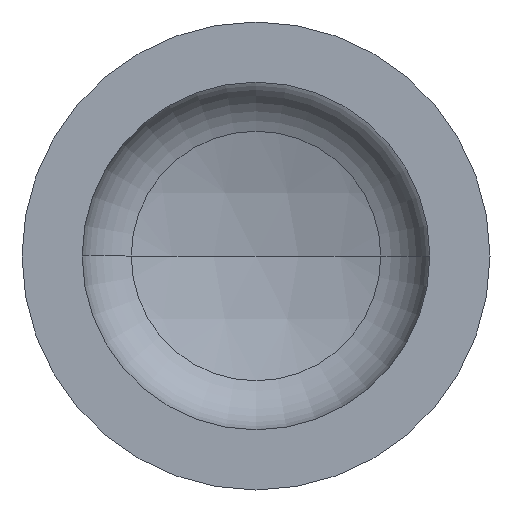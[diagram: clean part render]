
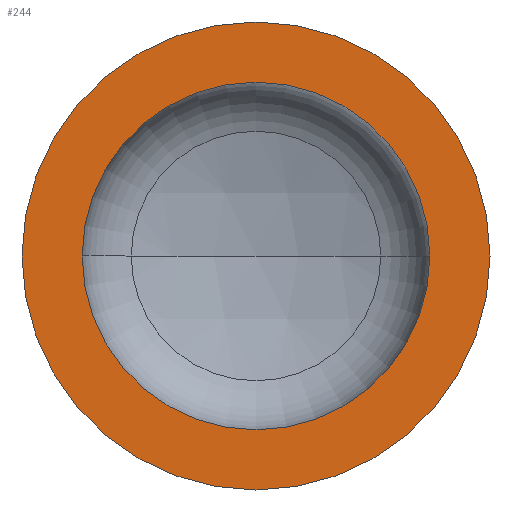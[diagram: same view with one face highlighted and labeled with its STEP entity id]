
A CAD part, front view. The second image highlights one B-rep face of the part: STEP entity #244.
In plain terms, the highlighted planar face has unit normal (0, -1, 0).
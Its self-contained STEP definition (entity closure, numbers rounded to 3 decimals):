
#1 = VERTEX_POINT ( 'NONE', #229 ) ;
#18 = CARTESIAN_POINT ( 'NONE',  ( -350., 0., 0. ) ) ;
#28 = VERTEX_POINT ( 'NONE', #228 ) ;
#29 = AXIS2_PLACEMENT_3D ( 'NONE', #155, #115, #117 ) ;
#32 = VERTEX_POINT ( 'NONE', #269 ) ;
#33 = ORIENTED_EDGE ( 'NONE', *, *, #320, .T. ) ;
#39 = AXIS2_PLACEMENT_3D ( 'NONE', #18, #94, #358 ) ;
#48 = CARTESIAN_POINT ( 'NONE',  ( -260., 0., 0. ) ) ;
#53 = ORIENTED_EDGE ( 'NONE', *, *, #91, .T. ) ;
#62 = ORIENTED_EDGE ( 'NONE', *, *, #386, .F. ) ;
#80 = AXIS2_PLACEMENT_3D ( 'NONE', #327, #326, #325 ) ;
#82 = AXIS2_PLACEMENT_3D ( 'NONE', #305, #304, #166 ) ;
#91 = EDGE_CURVE ( 'NONE', #1, #32, #312, .T. ) ;
#94 = DIRECTION ( 'NONE',  ( 0., 1., 0. ) ) ;
#95 = EDGE_CURVE ( 'NONE', #28, #210, #113, .T. ) ;
#107 = EDGE_LOOP ( 'NONE', ( #391, #62 ) ) ;
#113 = CIRCLE ( 'NONE', #80, 260. ) ;
#114 = CIRCLE ( 'NONE', #296, 260. ) ;
#115 = DIRECTION ( 'NONE',  ( 0., -1., 0. ) ) ;
#117 = DIRECTION ( 'NONE',  ( 1., 0., 0. ) ) ;
#129 = CARTESIAN_POINT ( 'NONE',  ( 0., 0., 0. ) ) ;
#145 = FACE_OUTER_BOUND ( 'NONE', #399, .T. ) ;
#153 = DIRECTION ( 'NONE',  ( 1., 0., 0. ) ) ;
#155 = CARTESIAN_POINT ( 'NONE',  ( 0., 0., 0. ) ) ;
#166 = DIRECTION ( 'NONE',  ( 1., 0., 0. ) ) ;
#170 = PLANE ( 'NONE',  #39 ) ;
#210 = VERTEX_POINT ( 'NONE', #48 ) ;
#213 = FACE_BOUND ( 'NONE', #107, .T. ) ;
#228 = CARTESIAN_POINT ( 'NONE',  ( 260., 0., 0. ) ) ;
#229 = CARTESIAN_POINT ( 'NONE',  ( -350., 0., 0. ) ) ;
#244 = ADVANCED_FACE ( 'NONE', ( #213, #145 ), #170, .F. ) ;
#269 = CARTESIAN_POINT ( 'NONE',  ( 350., 0., 0. ) ) ;
#296 = AXIS2_PLACEMENT_3D ( 'NONE', #129, #311, #153 ) ;
#304 = DIRECTION ( 'NONE',  ( 0., -1., 0. ) ) ;
#305 = CARTESIAN_POINT ( 'NONE',  ( 0., 0., 0. ) ) ;
#311 = DIRECTION ( 'NONE',  ( 0., -1., 0. ) ) ;
#312 = CIRCLE ( 'NONE', #82, 350. ) ;
#320 = EDGE_CURVE ( 'NONE', #32, #1, #350, .T. ) ;
#325 = DIRECTION ( 'NONE',  ( 1., 0., 0. ) ) ;
#326 = DIRECTION ( 'NONE',  ( 0., -1., 0. ) ) ;
#327 = CARTESIAN_POINT ( 'NONE',  ( 0., 0., 0. ) ) ;
#350 = CIRCLE ( 'NONE', #29, 350. ) ;
#358 = DIRECTION ( 'NONE',  ( -1., 0., 0. ) ) ;
#386 = EDGE_CURVE ( 'NONE', #210, #28, #114, .T. ) ;
#391 = ORIENTED_EDGE ( 'NONE', *, *, #95, .F. ) ;
#399 = EDGE_LOOP ( 'NONE', ( #33, #53 ) ) ;
